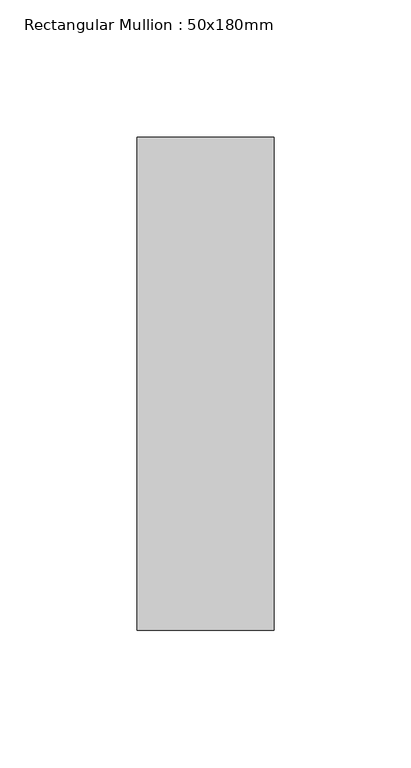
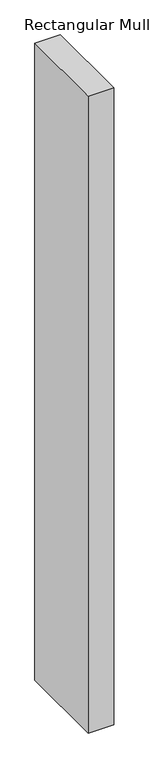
"""IFC4 building model written with IfcOpenShell, lengths in millimetres: member geometry, Rectangular Mullion : 50x180mm."""

from ifc_helpers import new_model, si_unit, frame, origin, place, context, project, spatial, polyline, outline, extrude, source, transform, mapped, element, save


def rectangular_mullion_50x180mm_a6ccd603(model_context):
    return source(origin(), model_context, "Body", "SweptSolid", [
        extrude(outline(polyline([(25.0, 90.0), (25.0, -90.0), (-25.0, -90.0), (-25.0, 90.0), (25.0, 90.0)])), frame((0.0, 0.0, -1315.8333336), z_axis=(0.0, 0.0, 1.0), x_axis=(1.0, 0.0, 0.0)), (0.0, 0.0, 1.0), 1315.8333336),
    ])


if __name__ == "__main__":
    model = new_model("IFC4")
    model_context = context("Model", 3, world=origin())
    ifc_project = project(units=[si_unit("LENGTHUNIT", "METRE", prefix="MILLI")], contexts=[model_context])
    site = spatial("IfcSite", under=ifc_project)
    building = spatial("IfcBuilding", under=site)
    placement = place(None, origin())
    rectangular_mullion_50x180mm_shape = rectangular_mullion_50x180mm_a6ccd603(model_context)
    element("IfcMember", 1, ObjectType="Rectangular Mullion : 50x180mm", at=placement, inside=building, context=model_context, shape_type="MappedRepresentation", body=[
        mapped(rectangular_mullion_50x180mm_shape, transform((0.0, 0.0, 0.0), x_axis=(1.0, 0.0, 0.0), y_axis=(0.0, 1.0, 0.0), z_axis=(0.0, 0.0, 1.0))),
    ])
    save(model, "model.ifc")
